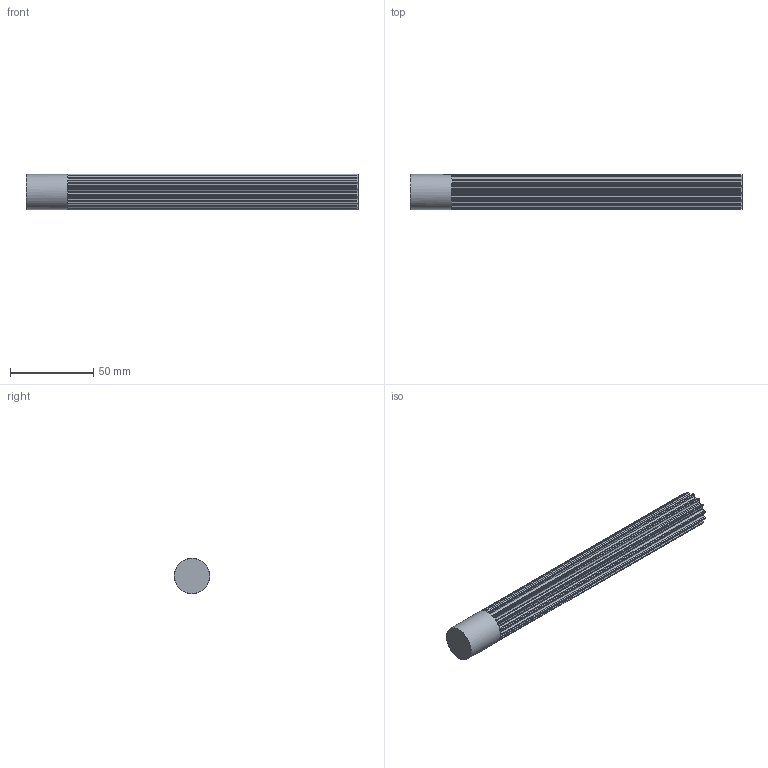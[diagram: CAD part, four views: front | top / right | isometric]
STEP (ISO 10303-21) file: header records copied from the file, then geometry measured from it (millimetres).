
FILE_DESCRIPTION( ( 'STEP AP214' ), '1' );
FILE_NAME( 'C:/Users/StangenbergN/Desktop/Steps Zahnriemenräder/K166_HTD-Zahnwellen/17291400.stp', '2019-06-06T09:40:49', ( '' ), ( '' ), ' ', 'PARTsolutions', ' ' );
FILE_SCHEMA( ( 'AUTOMOTIVE_DESIGN { 1 0 10303 214 1 1 1 1 }' ) );
Length unit declared in the file: millimetre
Products named in the file (1): _17291400
Bounding box: 200 x 21.14 x 21.14 mm (x, y, z)
Volume: 55955.3 mm3; surface area: 18262.6 mm2
Topology: 1 solids, 1 shells, 115 faces, 339 edges, 226 vertices
Faces by surface type: plane 58, cylinder 57
Full cylindrical faces by diameter (mm): 21.14 x1
Entity records: 4816 total; most frequent: DIRECTION 710, CARTESIAN_POINT 678, ORIENTED_EDGE 674, EDGE_CURVE 337, AXIS2_PLACEMENT_3D 257, VERTEX_POINT 225, LINE 196, VECTOR 196
